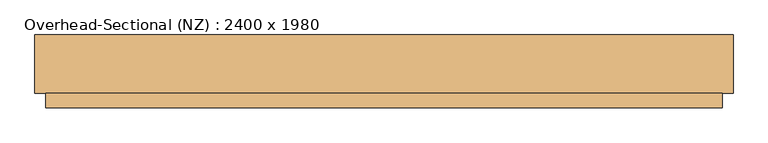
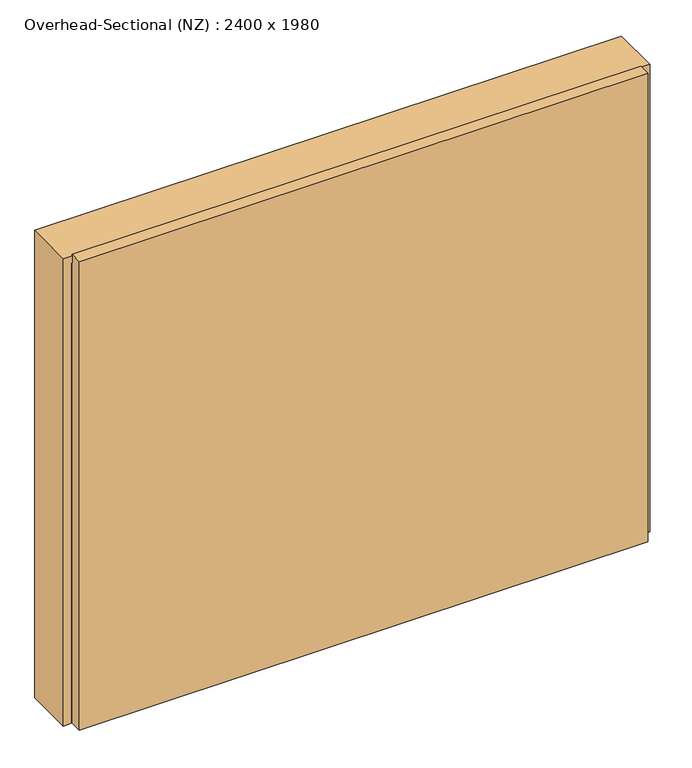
"""IFC4 building model written with IfcOpenShell, lengths in millimetres: door geometry, Overhead-Sectional (NZ) : 2400 x 1980."""

from ifc_helpers import new_model, si_unit, frame, origin, origin_with_axes, place, context, project, spatial, polyline, outline, extrude, source, transform, mapped, element, save


def overhead_sectional_nz_2400_x_1980_766037b8(model_context):
    return source(origin(), model_context, "Body", "SweptSolid", [
        extrude(outline(polyline([(0.0, 1163.0), (0.0, 1195.0), (2012.0, 1195.0), (2012.0, -1195.0), (0.0, -1195.0), (0.0, -1163.0), (1980.0, -1163.0), (1980.0, 1163.0), (0.0, 1163.0)])), frame((0.0, -100.0, 0.0), z_axis=(0.0, 1.0, 0.0), x_axis=(0.0, 0.0, 1.0)), (0.0, 0.0, 1.0), 200.0),
        extrude(outline(polyline([(1158.0, -100.0), (1158.0, -150.0), (-1158.0, -150.0), (-1158.0, -100.0), (1158.0, -100.0)])), origin_with_axes(), (0.0, 0.0, 1.0), 2017.0),
        extrude(outline(polyline([(-60.0, -75.0), (60.0, -75.0), (60.0, -100.0), (-60.0, -100.0), (-60.0, -75.0)])), frame((0.0, 0.0, 399.8541619), z_axis=(0.0, 0.0, 1.0), x_axis=(1.0, 0.0, 0.0)), (0.0, 0.0, 1.0), 40.0),
    ])


if __name__ == "__main__":
    model = new_model("IFC4")
    model_context = context("Model", 3, world=origin())
    ifc_project = project(units=[si_unit("LENGTHUNIT", "METRE", prefix="MILLI")], contexts=[model_context])
    site = spatial("IfcSite", under=ifc_project)
    building = spatial("IfcBuilding", under=site)
    placement = place(None, origin())
    overhead_sectional_nz_2400_x_1980_shape = overhead_sectional_nz_2400_x_1980_766037b8(model_context)
    element("IfcDoor", 1, ObjectType="Overhead-Sectional (NZ) : 2400 x 1980", at=placement, inside=building, context=model_context, shape_type="MappedRepresentation", body=[
        mapped(overhead_sectional_nz_2400_x_1980_shape, transform((0.0, 0.0, 0.0), x_axis=(1.0, 0.0, 0.0), y_axis=(0.0, 1.0, 0.0), z_axis=(0.0, 0.0, 1.0))),
    ])
    save(model, "model.ifc")
